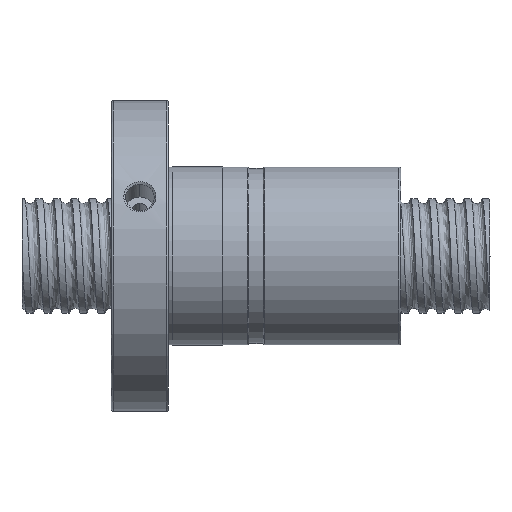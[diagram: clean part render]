
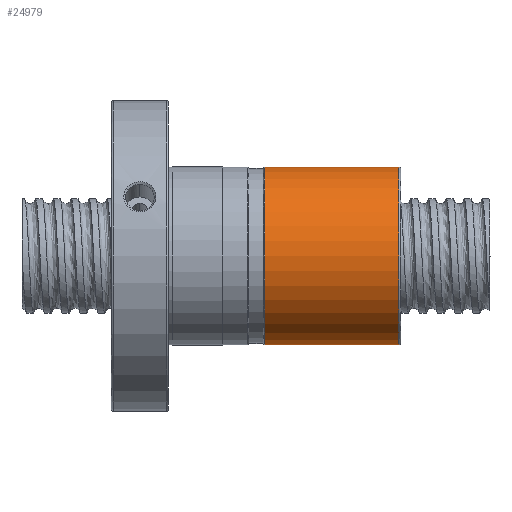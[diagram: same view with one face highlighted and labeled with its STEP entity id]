
A CAD part, front view. The second image highlights one B-rep face of the part: STEP entity #24979.
In plain terms, the highlighted cylindrical face has radius 24.9 mm (diameter 49.8 mm), a partial arc.
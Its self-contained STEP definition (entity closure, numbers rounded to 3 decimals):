
#23956 = EDGE_CURVE ( 'NONE', #24136, #24113, #37441, .T. ) ;
#23962 = EDGE_CURVE ( 'NONE', #24135, #24114, #37437, .T. ) ;
#24113 = VERTEX_POINT ( 'NONE', #24390 ) ;
#24114 = VERTEX_POINT ( 'NONE', #24387 ) ;
#24135 = VERTEX_POINT ( 'NONE', #24336 ) ;
#24136 = VERTEX_POINT ( 'NONE', #24334 ) ;
#24334 = CARTESIAN_POINT ( 'NONE',  ( -0.5, 0., -24.9 ) ) ;
#24336 = CARTESIAN_POINT ( 'NONE',  ( -0.5, 0., 24.9 ) ) ;
#24387 = CARTESIAN_POINT ( 'NONE',  ( -38.01, 0., 24.9 ) ) ;
#24390 = CARTESIAN_POINT ( 'NONE',  ( -38.01, 0., -24.9 ) ) ;
#24979 = ADVANCED_FACE ( 'NONE', ( #38319 ), #38318, .T. ) ;
#24981 = ORIENTED_EDGE ( 'NONE', *, *, #23956, .F. ) ;
#24983 = ORIENTED_EDGE ( 'NONE', *, *, #25159, .T. ) ;
#25069 = EDGE_LOOP ( 'NONE', ( #24981, #24983, #25161, #25163 ) ) ;
#25159 = EDGE_CURVE ( 'NONE', #24136, #24135, #38569, .T. ) ;
#25161 = ORIENTED_EDGE ( 'NONE', *, *, #23962, .T. ) ;
#25163 = ORIENTED_EDGE ( 'NONE', *, *, #25165, .T. ) ;
#25165 = EDGE_CURVE ( 'NONE', #24114, #24113, #38564, .T. ) ;
#37434 = DIRECTION ( 'NONE',  ( -1., 0., 0. ) ) ;
#37435 = VECTOR ( 'NONE', #37434, 1000. ) ;
#37436 = CARTESIAN_POINT ( 'NONE',  ( 0., 0., 24.9 ) ) ;
#37437 = LINE ( 'NONE', #37436, #37435 ) ;
#37438 = DIRECTION ( 'NONE',  ( -1., 0., 0. ) ) ;
#37439 = VECTOR ( 'NONE', #37438, 1000. ) ;
#37440 = CARTESIAN_POINT ( 'NONE',  ( 0., 0., -24.9 ) ) ;
#37441 = LINE ( 'NONE', #37440, #37439 ) ;
#38313 = DIRECTION ( 'NONE',  ( 0., 0., 1. ) ) ;
#38314 = DIRECTION ( 'NONE',  ( -1., 0., 0. ) ) ;
#38315 = CARTESIAN_POINT ( 'NONE',  ( 0., 0., 0. ) ) ;
#38316 = AXIS2_PLACEMENT_3D ( 'NONE', #38315, #38314, #38313 ) ;
#38318 = CYLINDRICAL_SURFACE ( 'NONE', #38316, 24.9 ) ;
#38319 = FACE_OUTER_BOUND ( 'NONE', #25069, .T. ) ;
#38560 = DIRECTION ( 'NONE',  ( 0., 0., 1. ) ) ;
#38561 = DIRECTION ( 'NONE',  ( 1., 0., 0. ) ) ;
#38562 = CARTESIAN_POINT ( 'NONE',  ( -38.01, 0., 0. ) ) ;
#38563 = AXIS2_PLACEMENT_3D ( 'NONE', #38562, #38561, #38560 ) ;
#38564 = CIRCLE ( 'NONE', #38563, 24.9 ) ;
#38565 = DIRECTION ( 'NONE',  ( 0., 0., -1. ) ) ;
#38566 = DIRECTION ( 'NONE',  ( -1., 0., 0. ) ) ;
#38567 = CARTESIAN_POINT ( 'NONE',  ( -0.5, 0., 0. ) ) ;
#38568 = AXIS2_PLACEMENT_3D ( 'NONE', #38567, #38566, #38565 ) ;
#38569 = CIRCLE ( 'NONE', #38568, 24.9 ) ;
